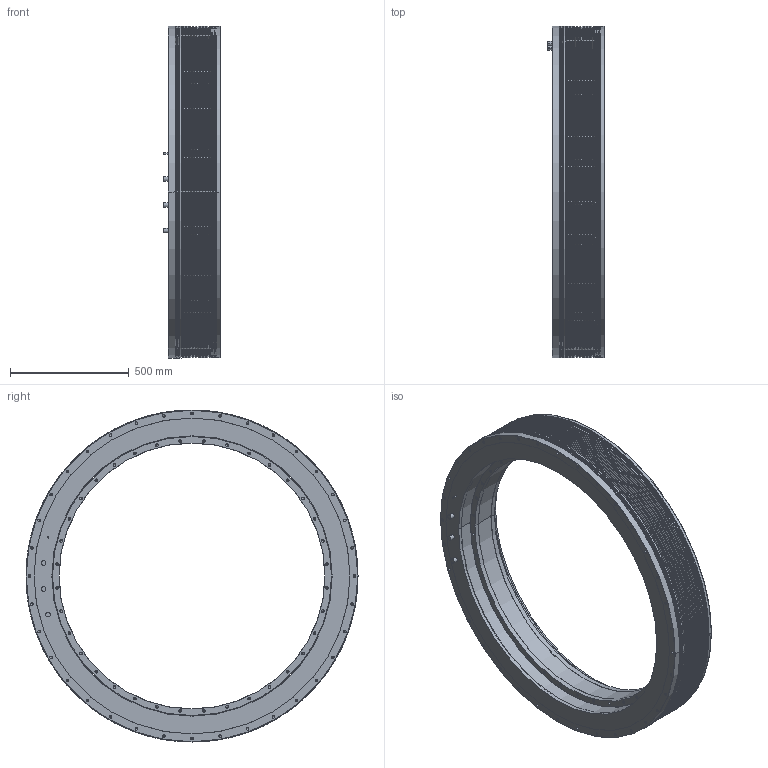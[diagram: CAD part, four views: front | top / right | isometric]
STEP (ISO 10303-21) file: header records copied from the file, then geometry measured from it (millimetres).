
FILE_DESCRIPTION((''),'2;1');
FILE_NAME('TK1340-100','2017-10-30T',('stefanos'),(''),'CREO PARAMETRIC BY PTC INC, 2015480','CREO PARAMETRIC BY PTC INC, 2015480','');
FILE_SCHEMA(('CONFIG_CONTROL_DESIGN'));
Length unit declared in the file: millimetre
Products named in the file (1): TK1340-100
Bounding box: 240 x 1398 x 1398 mm (x, y, z)
Volume: 106623033.7 mm3; surface area: 9258529.3 mm2
Topology: 9 solids, 9 shells, 713 faces, 1642 edges, 858 vertices
Faces by surface type: cylinder 328, cone 316, plane 37, torus 16, revolution 16
Entity records: 19944 total; most frequent: CARTESIAN_POINT 4501, DIRECTION 3554, ORIENTED_EDGE 2852, AXIS2_PLACEMENT_3D 1447, EDGE_CURVE 1426, VERTEX_POINT 858, EDGE_LOOP 858, CIRCLE 750
